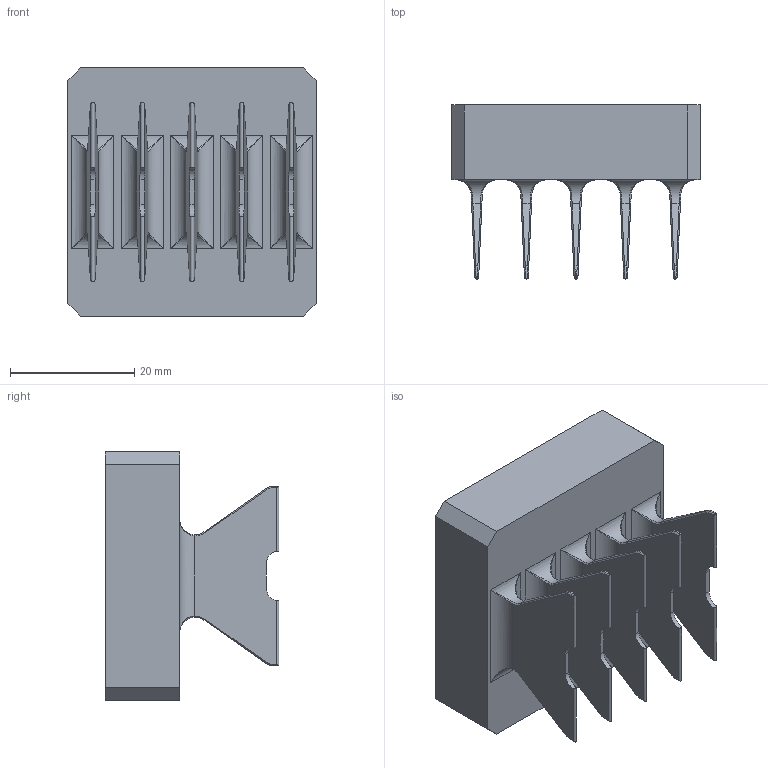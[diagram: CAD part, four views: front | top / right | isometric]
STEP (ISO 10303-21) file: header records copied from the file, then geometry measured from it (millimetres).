
FILE_DESCRIPTION (( 'STEP AP203' ), '1' );
FILE_NAME ('UB-2.STEP', '2025-03-24T03:05:26', ( 'Windows 蚚誧' ), ( 'Organization' ), 'SwSTEP 2.0', 'SolidWorks 2020', '' );
FILE_SCHEMA (( 'CONFIG_CONTROL_DESIGN' ));
Length unit declared in the file: millimetre
Products named in the file (1): UB-2
Bounding box: 40 x 28 x 40 mm (x, y, z)
Volume: 20651.6 mm3; surface area: 8810.3 mm2
Topology: 1 solids, 1 shells, 232 faces, 584 edges, 331 vertices
Faces by surface type: plane 85, cylinder 71, bspline 60, cone 16
Entity records: 11667 total; most frequent: CARTESIAN_POINT 7022, ORIENTED_EDGE 1096, DIRECTION 671, EDGE_CURVE 548, VERTEX_POINT 331, EDGE_LOOP 245, LINE 241, VECTOR 241
